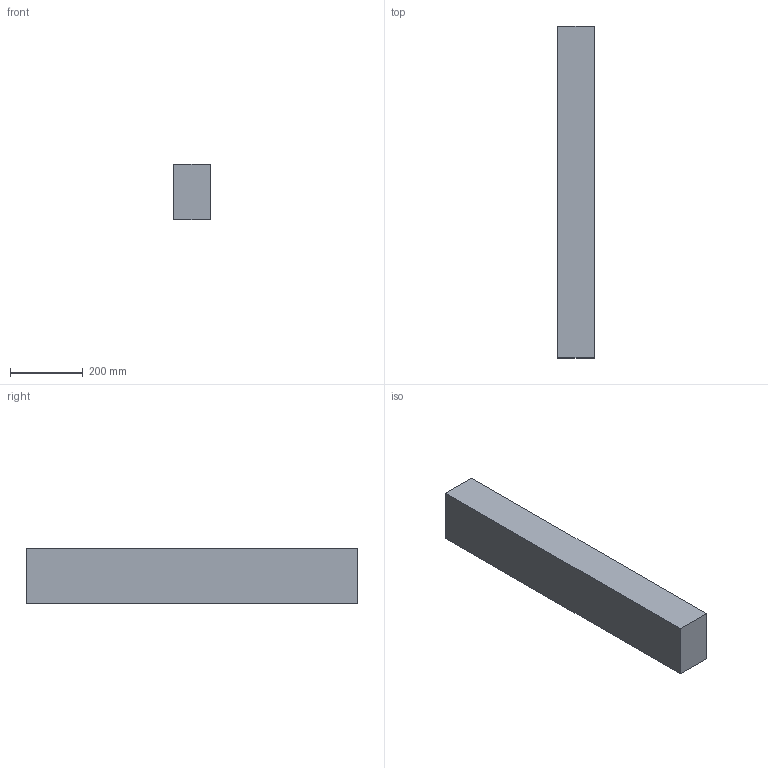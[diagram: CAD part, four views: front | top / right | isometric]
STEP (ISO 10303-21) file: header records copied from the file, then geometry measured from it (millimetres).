
FILE_DESCRIPTION(/* description */ (''),/* implementation_level */ '2;1');
FILE_NAME(/* name */ '4x6x36',/* time_stamp */ '2024-09-20T11:45:24-05:00',/* author */ (''),/* organization */ (''),/* preprocessor_version */ 'ST-DEVELOPER v19.2',/* originating_system */ 'Rhino 8.5',/* authorisation */ '');
FILE_SCHEMA (('CONFIG_CONTROL_DESIGN'));
Length unit declared in the file: inch
Products named in the file (1): Document
Bounding box: 101.6 x 914.4 x 152.4 mm (x, y, z)
Volume: 14158423.3 mm3; surface area: 495482.9 mm2
Topology: 1 solids, 1 shells, 6 faces, 12 edges, 8 vertices
Faces by surface type: plane 6
Entity records: 226 total; most frequent: CARTESIAN_POINT 40, ORIENTED_EDGE 24, EDGE_CURVE 12, B_SPLINE_CURVE_WITH_KNOTS 12, DIRECTION 10, VERTEX_POINT 8, AXIS2_PLACEMENT_3D 8, ORGANIZATION 7
